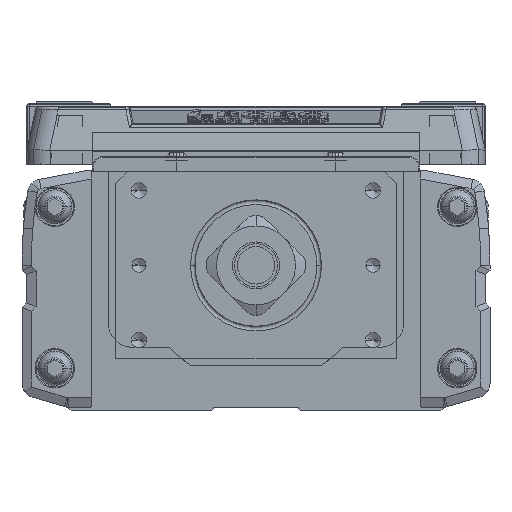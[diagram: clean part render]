
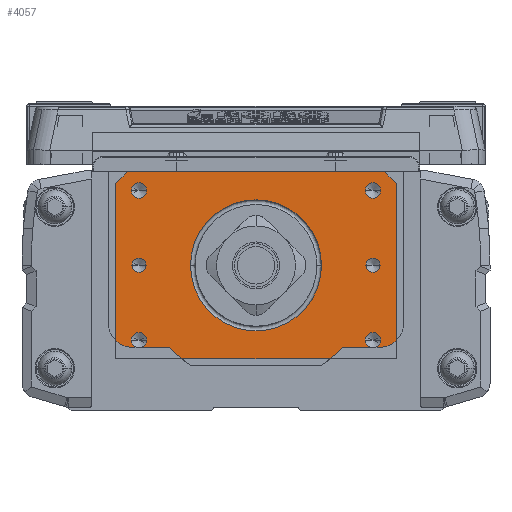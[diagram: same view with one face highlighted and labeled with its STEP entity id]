
A CAD part, left-side view. The second image highlights one B-rep face of the part: STEP entity #4057.
In plain terms, the highlighted planar face has unit normal (-1, 0, 0).
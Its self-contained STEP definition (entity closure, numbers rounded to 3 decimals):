
#4057=ADVANCED_FACE('',(#9150,#9151,#9152,#9153,#9154,#9155,#9156,#9157),#9158,.T.);
#9150=FACE_BOUND('',#15650,.T.);
#9151=FACE_BOUND('',#15651,.T.);
#9152=FACE_BOUND('',#15652,.T.);
#9153=FACE_BOUND('',#15653,.T.);
#9154=FACE_BOUND('',#15654,.T.);
#9155=FACE_BOUND('',#15655,.T.);
#9156=FACE_BOUND('',#15656,.T.);
#9157=FACE_OUTER_BOUND('',#15657,.T.);
#9158=PLANE('',#15658);
#15650=EDGE_LOOP('',(#27587,#27588));
#15651=EDGE_LOOP('',(#27589,#27590));
#15652=EDGE_LOOP('',(#27591,#27592));
#15653=EDGE_LOOP('',(#27593,#27594));
#15654=EDGE_LOOP('',(#27595,#27596));
#15655=EDGE_LOOP('',(#27597,#27598));
#15656=EDGE_LOOP('',(#27599,#27600,#27601));
#15657=EDGE_LOOP('',(#27602,#27603,#27604,#27605,#27606,#27607));
#15658=AXIS2_PLACEMENT_3D('',#27608,#27609,#27610);
#27587=ORIENTED_EDGE('',*,*,#37176,.T.);
#27588=ORIENTED_EDGE('',*,*,#41610,.T.);
#27589=ORIENTED_EDGE('',*,*,#40179,.T.);
#27590=ORIENTED_EDGE('',*,*,#38533,.T.);
#27591=ORIENTED_EDGE('',*,*,#41611,.T.);
#27592=ORIENTED_EDGE('',*,*,#39826,.T.);
#27593=ORIENTED_EDGE('',*,*,#41612,.T.);
#27594=ORIENTED_EDGE('',*,*,#41613,.T.);
#27595=ORIENTED_EDGE('',*,*,#41614,.T.);
#27596=ORIENTED_EDGE('',*,*,#37530,.T.);
#27597=ORIENTED_EDGE('',*,*,#40629,.T.);
#27598=ORIENTED_EDGE('',*,*,#37149,.T.);
#27599=ORIENTED_EDGE('',*,*,#40481,.T.);
#27600=ORIENTED_EDGE('',*,*,#39769,.T.);
#27601=ORIENTED_EDGE('',*,*,#40482,.T.);
#27602=ORIENTED_EDGE('',*,*,#41615,.F.);
#27603=ORIENTED_EDGE('',*,*,#41616,.F.);
#27604=ORIENTED_EDGE('',*,*,#41283,.T.);
#27605=ORIENTED_EDGE('',*,*,#41617,.T.);
#27606=ORIENTED_EDGE('',*,*,#41618,.F.);
#27607=ORIENTED_EDGE('',*,*,#41619,.T.);
#27608=CARTESIAN_POINT('',(-580.,0.,-20.));
#27609=DIRECTION('',(-1.0,0.,0.));
#27610=DIRECTION('',(0.,-1.0,0.));
#37149=EDGE_CURVE('',#44237,#44234,#44238,.T.);
#37176=EDGE_CURVE('',#44279,#44284,#44286,.T.);
#37530=EDGE_CURVE('',#44938,#44935,#44939,.T.);
#38533=EDGE_CURVE('',#46687,#46685,#46688,.T.);
#39769=EDGE_CURVE('',#48768,#48772,#48774,.T.);
#39826=EDGE_CURVE('',#48857,#48854,#48858,.T.);
#40179=EDGE_CURVE('',#46685,#46687,#49397,.T.);
#40481=EDGE_CURVE('',#49864,#48768,#49865,.T.);
#40482=EDGE_CURVE('',#48772,#49864,#49866,.T.);
#40629=EDGE_CURVE('',#44234,#44237,#50097,.T.);
#41283=EDGE_CURVE('',#51018,#51015,#51019,.T.);
#41610=EDGE_CURVE('',#44284,#44279,#51460,.T.);
#41611=EDGE_CURVE('',#48854,#48857,#51461,.T.);
#41612=EDGE_CURVE('',#51462,#51463,#51464,.T.);
#41613=EDGE_CURVE('',#51463,#51462,#51465,.T.);
#41614=EDGE_CURVE('',#44935,#44938,#51466,.T.);
#41615=EDGE_CURVE('',#51467,#51468,#51469,.T.);
#41616=EDGE_CURVE('',#51018,#51467,#51470,.T.);
#41617=EDGE_CURVE('',#51015,#51471,#51472,.T.);
#41618=EDGE_CURVE('',#51473,#51471,#51474,.T.);
#41619=EDGE_CURVE('',#51473,#51468,#51475,.T.);
#44234=VERTEX_POINT('',#54558);
#44237=VERTEX_POINT('',#54562);
#44238=CIRCLE('',#54563,1.65);
#44279=VERTEX_POINT('',#54618);
#44284=VERTEX_POINT('',#54624);
#44286=CIRCLE('',#54627,1.5);
#44935=VERTEX_POINT('',#55504);
#44938=VERTEX_POINT('',#55508);
#44939=CIRCLE('',#55509,1.65);
#46685=VERTEX_POINT('',#57859);
#46687=VERTEX_POINT('',#57862);
#46688=CIRCLE('',#57863,1.5);
#48768=VERTEX_POINT('',#60798);
#48772=VERTEX_POINT('',#60802);
#48774=CIRCLE('',#60804,14.0);
#48854=VERTEX_POINT('',#60915);
#48857=VERTEX_POINT('',#60919);
#48858=CIRCLE('',#60920,1.65);
#49397=CIRCLE('',#61713,1.5);
#49864=VERTEX_POINT('',#62476);
#49865=CIRCLE('',#62477,14.0);
#49866=CIRCLE('',#62478,14.0);
#50097=CIRCLE('',#62807,1.65);
#51015=VERTEX_POINT('',#64106);
#51018=VERTEX_POINT('',#64110);
#51019=LINE('',#64111,#64112);
#51460=CIRCLE('',#64775,1.5);
#51461=CIRCLE('',#64776,1.65);
#51462=VERTEX_POINT('',#64777);
#51463=VERTEX_POINT('',#64778);
#51464=CIRCLE('',#64779,1.65);
#51465=CIRCLE('',#64780,1.65);
#51466=CIRCLE('',#64781,1.65);
#51467=VERTEX_POINT('',#64782);
#51468=VERTEX_POINT('',#64783);
#51469=LINE('',#64784,#64785);
#51470=LINE('',#64786,#64787);
#51471=VERTEX_POINT('',#64788);
#51472=LINE('',#64789,#64790);
#51473=VERTEX_POINT('',#64791);
#51474=LINE('',#64792,#64793);
#51475=LINE('',#64794,#64795);
#54558=CARTESIAN_POINT('',(-580.,-26.65,16.));
#54562=CARTESIAN_POINT('',(-580.,-23.35,16.));
#54563=AXIS2_PLACEMENT_3D('',#68986,#68987,#68988);
#54618=CARTESIAN_POINT('',(-580.,-26.5,0.));
#54624=CARTESIAN_POINT('',(-580.,-23.5,0.));
#54627=AXIS2_PLACEMENT_3D('',#69020,#69021,#69022);
#55504=CARTESIAN_POINT('',(-580.,26.65,16.));
#55508=CARTESIAN_POINT('',(-580.,23.35,16.));
#55509=AXIS2_PLACEMENT_3D('',#69501,#69502,#69503);
#57859=CARTESIAN_POINT('',(-580.,26.5,0.));
#57862=CARTESIAN_POINT('',(-580.,23.5,0.));
#57863=AXIS2_PLACEMENT_3D('',#71053,#71054,#71055);
#60798=CARTESIAN_POINT('',(-580.,14.,0.));
#60802=CARTESIAN_POINT('',(-580.,-14.,0.));
#60804=AXIS2_PLACEMENT_3D('',#72860,#72861,#72862);
#60915=CARTESIAN_POINT('',(-580.,-26.65,-16.));
#60919=CARTESIAN_POINT('',(-580.,-23.35,-16.));
#60920=AXIS2_PLACEMENT_3D('',#72922,#72923,#72924);
#61713=AXIS2_PLACEMENT_3D('',#73369,#73370,#73371);
#62476=CARTESIAN_POINT('',(-580.,0.,-14.));
#62477=AXIS2_PLACEMENT_3D('',#73763,#73764,#73765);
#62478=AXIS2_PLACEMENT_3D('',#73766,#73767,#73768);
#62807=AXIS2_PLACEMENT_3D('',#73975,#73976,#73977);
#64106=CARTESIAN_POINT('',(-580.,-30.,-20.));
#64110=CARTESIAN_POINT('',(-580.,30.,-20.));
#64111=CARTESIAN_POINT('',(-580.,30.,-20.));
#64112=VECTOR('',#74774,10.0);
#64775=AXIS2_PLACEMENT_3D('',#75163,#75164,#75165);
#64776=AXIS2_PLACEMENT_3D('',#75166,#75167,#75168);
#64777=CARTESIAN_POINT('',(-580.,26.65,-16.));
#64778=CARTESIAN_POINT('',(-580.,23.35,-16.));
#64779=AXIS2_PLACEMENT_3D('',#75169,#75170,#75171);
#64780=AXIS2_PLACEMENT_3D('',#75172,#75173,#75174);
#64781=AXIS2_PLACEMENT_3D('',#75175,#75176,#75177);
#64782=CARTESIAN_POINT('',(-580.,30.,17.5));
#64783=CARTESIAN_POINT('',(-580.,27.5,20.));
#64784=CARTESIAN_POINT('',(-580.,31.25,16.25));
#64785=VECTOR('',#75178,10.);
#64786=CARTESIAN_POINT('',(-580.,30.,-20.));
#64787=VECTOR('',#75179,10.0);
#64788=CARTESIAN_POINT('',(-580.,-30.,17.5));
#64789=CARTESIAN_POINT('',(-580.,-30.,-20.));
#64790=VECTOR('',#75180,10.0);
#64791=CARTESIAN_POINT('',(-580.,-27.5,20.));
#64792=CARTESIAN_POINT('',(-580.,-31.25,16.25));
#64793=VECTOR('',#75181,10.);
#64794=CARTESIAN_POINT('',(-580.,30.,20.));
#64795=VECTOR('',#75182,10.0);
#68986=CARTESIAN_POINT('',(-580.,-25.,16.));
#68987=DIRECTION('',(1.0,0.,0.));
#68988=DIRECTION('',(0.,-1.0,0.));
#69020=CARTESIAN_POINT('',(-580.,-25.,0.));
#69021=DIRECTION('',(1.0,0.,0.));
#69022=DIRECTION('',(0.,-1.0,0.));
#69501=CARTESIAN_POINT('',(-580.,25.,16.));
#69502=DIRECTION('',(1.0,0.,0.));
#69503=DIRECTION('',(0.,1.0,0.));
#71053=CARTESIAN_POINT('',(-580.,25.,0.));
#71054=DIRECTION('',(1.0,0.,0.));
#71055=DIRECTION('',(0.,1.0,0.));
#72860=CARTESIAN_POINT('',(-580.,0.,0.));
#72861=DIRECTION('',(1.0,0.,0.));
#72862=DIRECTION('',(0.,0.,1.0));
#72922=CARTESIAN_POINT('',(-580.,-25.,-16.));
#72923=DIRECTION('',(1.0,0.,0.));
#72924=DIRECTION('',(0.,-1.0,0.));
#73369=CARTESIAN_POINT('',(-580.,25.,0.));
#73370=DIRECTION('',(1.0,0.,0.));
#73371=DIRECTION('',(0.,1.0,0.));
#73763=CARTESIAN_POINT('',(-580.,0.,0.));
#73764=DIRECTION('',(1.0,0.,0.));
#73765=DIRECTION('',(0.,0.,1.0));
#73766=CARTESIAN_POINT('',(-580.,0.,0.));
#73767=DIRECTION('',(1.0,0.,0.));
#73768=DIRECTION('',(0.,0.,1.0));
#73975=CARTESIAN_POINT('',(-580.,-25.,16.));
#73976=DIRECTION('',(1.0,0.,0.));
#73977=DIRECTION('',(0.,-1.0,0.));
#74774=DIRECTION('',(0.,-1.0,0.));
#75163=CARTESIAN_POINT('',(-580.,-25.,0.));
#75164=DIRECTION('',(1.0,0.,0.));
#75165=DIRECTION('',(0.,-1.0,0.));
#75166=CARTESIAN_POINT('',(-580.,-25.,-16.));
#75167=DIRECTION('',(1.0,0.,0.));
#75168=DIRECTION('',(0.,-1.0,0.));
#75169=CARTESIAN_POINT('',(-580.,25.,-16.));
#75170=DIRECTION('',(1.0,0.,0.));
#75171=DIRECTION('',(0.,1.0,0.));
#75172=CARTESIAN_POINT('',(-580.,25.,-16.));
#75173=DIRECTION('',(1.0,0.,0.));
#75174=DIRECTION('',(0.,1.0,0.));
#75175=CARTESIAN_POINT('',(-580.,25.,16.));
#75176=DIRECTION('',(1.0,0.,0.));
#75177=DIRECTION('',(0.,1.0,0.));
#75178=DIRECTION('',(0.,-0.707,0.707));
#75179=DIRECTION('',(0.,0.,1.0));
#75180=DIRECTION('',(0.,0.,1.0));
#75181=DIRECTION('',(0.0,-0.707,-0.707));
#75182=DIRECTION('',(0.,1.0,0.));
